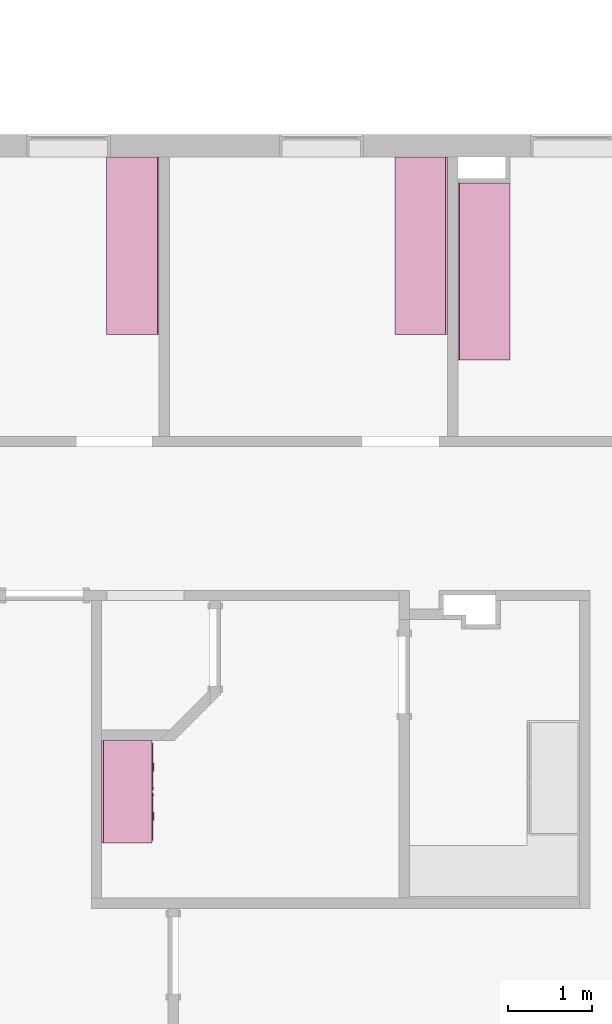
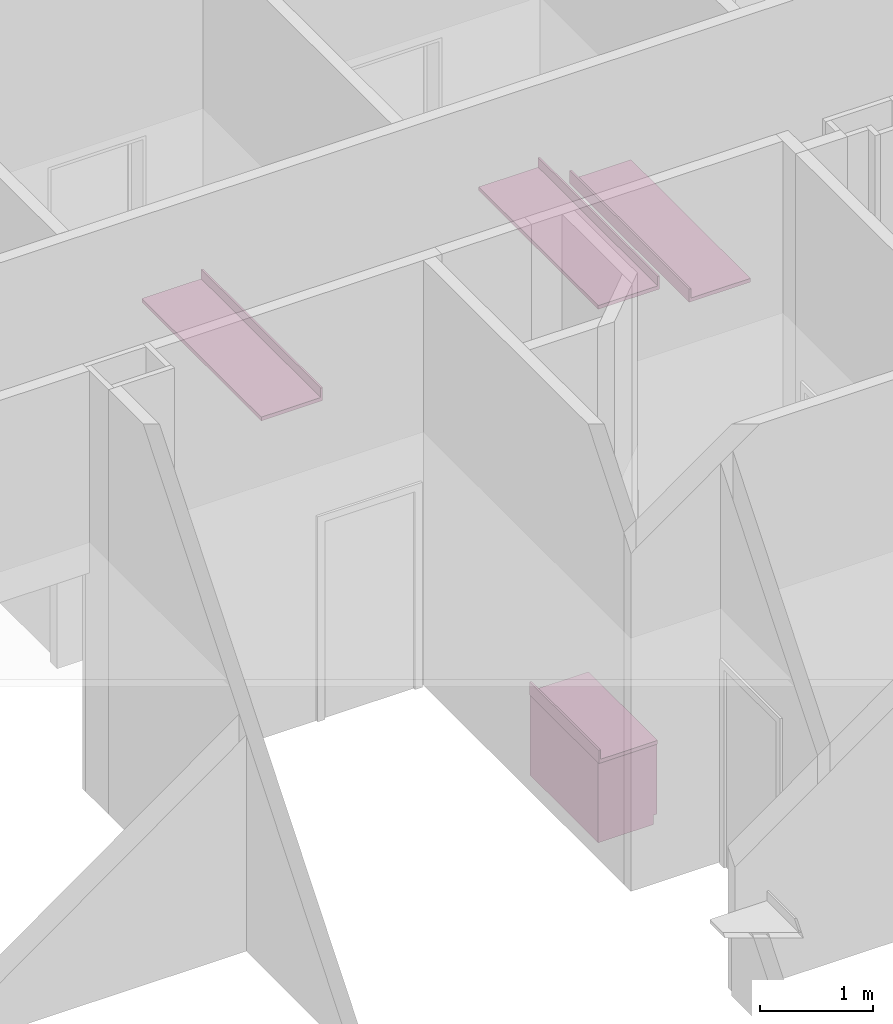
# One storey, part 45 of 47: 5 furnishings, 3 openings.
"""IFC2X3 building model written with IfcOpenShell, lengths in metres."""

from ifc_helpers import new_model, entity, si_unit, converted_unit, frame, frame_2d, origin, origin_2d_with_axis, place, context, project, spatial, polyline, circle_curve, parameter, trimmed, segment, composite_curve, rectangle, outline, extrude, face_set, surface_model, source, transform, mapped, type_object, type_shapes, element, save


model = new_model("IFC2X3")

# Units and contexts
model_context = context("Model", 3, precision=1e-09, world=origin())
plan_context = context("Plan", 3, precision=1e-09, world=origin())
ifc_project = project(units=[si_unit("LENGTHUNIT", "METRE"), si_unit("AREAUNIT", "SQUARE_METRE"), si_unit("VOLUMEUNIT", "CUBIC_METRE"), converted_unit("PLANEANGLEUNIT", "DEGREE", entity("IfcRatioMeasure", 0.01745329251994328), si_unit("PLANEANGLEUNIT", "RADIAN"), dimensions=[0, 0, 0, 0, 0, 0, 0]), si_unit("TIMEUNIT", "SECOND")], contexts=[model_context, plan_context])

# Site, building, storey, space
site_placement = place(None, origin())
site = spatial("IfcSite", under=ifc_project, at=site_placement, Name="Default", CompositionType="ELEMENT")
building_placement = place(site_placement, origin())
building = spatial("IfcBuilding", under=site, at=building_placement, CompositionType="ELEMENT")
storey_placement = place(building_placement, frame((0.0, 0.0, 4.570000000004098)))
storey = spatial("IfcBuildingStorey", under=building, at=storey_placement, Name="Second Floor", CompositionType="ELEMENT", Elevation=4.570000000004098)
space_1_placement = place(storey_placement, origin())
space_1 = spatial("IfcSpace", under=storey, at=space_1_placement, Name="2A12", CompositionType="ELEMENT", InteriorOrExteriorSpace="INTERNAL")

# Furnishings
furniture_type_1 = type_object("IfcFurnitureType", Name="1200mm", AssemblyPlace="NOTDEFINED")
shared_shape_1 = source(origin(), model_context, "Body", "SurfaceModel", [
    surface_model("IfcFaceBasedSurfaceModel", [(1.180949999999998, 0.04445000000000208, 0.86000000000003), (1.180949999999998, 0.04445000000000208, 0.09999999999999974), (0.01905000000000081, 0.04445000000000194, 0.09999999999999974), (0.01905000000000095, 0.04445000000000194, 0.86000000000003), (1.2, 0.02540000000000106, 0.8600000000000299), (0.0, 0.02540000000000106, 0.8600000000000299), (1.2, 0.02540000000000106, 0.09999999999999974), (0.0, 0.02540000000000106, 0.0999999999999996), (0.01905000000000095, 0.6063499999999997, 0.86000000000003), (0.01905000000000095, 0.6063499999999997, 0.09999999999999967), (0.01905000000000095, 0.06040000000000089, 0.09999999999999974), (0.0, 0.6254000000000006, 0.8600000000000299), (0.0, 0.6254000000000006, 0.0), (0.0, 0.06040000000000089, 0.0), (0.0, 0.06040000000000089, 0.09999999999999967), (1.180949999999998, 0.6063499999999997, 0.86000000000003), (1.180949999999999, 0.6063499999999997, 0.09999999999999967), (1.2, 0.6254000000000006, 0.8600000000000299), (1.2, 0.6254000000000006, 0.0), (1.180949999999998, 0.06040000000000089, 0.09999999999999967), (1.2, 0.06040000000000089, 0.09999999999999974), (1.2, 0.06040000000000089, 0.0), (0.3603250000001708, 0.0, 0.8155500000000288), (0.3603250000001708, 0.0, 0.8028500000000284), (0.258725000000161, 0.0, 0.8028500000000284), (0.258725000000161, 0.0, 0.8155500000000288), (0.9412750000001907, 0.0, 0.8155500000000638), (0.9412750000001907, 0.0, 0.8028500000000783), (0.8396750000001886, 0.0, 0.8028500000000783), (0.8396750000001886, 0.0, 0.8155500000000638), (0.5650750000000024, 0.0, 0.6822000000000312), (0.5650750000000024, 0.0, 0.5806000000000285), (0.5523750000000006, 0.0, 0.5806000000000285), (0.5523750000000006, 0.0, 0.6822000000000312), (0.6476249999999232, 0.0, 0.6822000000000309), (0.6476249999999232, 0.0, 0.5806000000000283), (0.6349249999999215, 0.0, 0.5806000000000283), (0.6349249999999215, 0.0, 0.6822000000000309), (0.3603250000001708, 0.01270000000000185, 0.8155500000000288), (0.3603250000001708, 0.01270000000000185, 0.8028500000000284), (0.2587250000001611, 0.01270000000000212, 0.8028500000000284), (0.2587250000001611, 0.01270000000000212, 0.8155500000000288), (0.9412750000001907, 0.01269999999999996, 0.8155500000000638), (0.9412750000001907, 0.01269999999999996, 0.8028500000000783), (0.8396750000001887, 0.01270000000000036, 0.8028500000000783), (0.8396750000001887, 0.01270000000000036, 0.8155500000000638), (0.5650750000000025, 0.01270000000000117, 0.6822000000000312), (0.5650750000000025, 0.01270000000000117, 0.5806000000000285), (0.5523750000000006, 0.01270000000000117, 0.5806000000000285), (0.5523750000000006, 0.01270000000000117, 0.6822000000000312), (0.6476249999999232, 0.0127000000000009, 0.6822000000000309), (0.6476249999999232, 0.0127000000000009, 0.5806000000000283), (0.6349249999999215, 0.0127000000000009, 0.5806000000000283), (0.6349249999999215, 0.0127000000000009, 0.6822000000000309), (0.5904749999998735, 0.01270000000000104, 0.8409500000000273), (0.5904749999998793, 0.01270000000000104, 0.7393500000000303), (0.01905000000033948, 0.0127000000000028, 0.7393500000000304), (0.01905000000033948, 0.0127000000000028, 0.8409500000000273), (1.180950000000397, 0.01269999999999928, 0.8409500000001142), (1.180950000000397, 0.01269999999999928, 0.7393500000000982), (0.6095249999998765, 0.01270000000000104, 0.7393500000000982), (0.6095249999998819, 0.01270000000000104, 0.8409500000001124), (0.5904749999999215, 0.01270000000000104, 0.7203000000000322), (0.5904749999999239, 0.01270000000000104, 0.1190499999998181), (0.01905000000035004, 0.0127000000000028, 0.1190499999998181), (0.01905000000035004, 0.0127000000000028, 0.7203000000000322), (1.180950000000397, 0.01269999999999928, 0.7203000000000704), (1.180950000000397, 0.01269999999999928, 0.1190499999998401), (0.6095249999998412, 0.01270000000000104, 0.1190499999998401), (0.6095249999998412, 0.01270000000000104, 0.7203000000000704), (0.5904749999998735, 0.02540000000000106, 0.8409500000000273), (0.5904749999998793, 0.02540000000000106, 0.7393500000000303), (0.01905000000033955, 0.02540000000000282, 0.7393500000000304), (0.01905000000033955, 0.02540000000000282, 0.8409500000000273), (1.180950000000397, 0.02539999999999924, 0.8409500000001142), (1.180950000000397, 0.02539999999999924, 0.7393500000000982), (0.6095249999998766, 0.025400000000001, 0.7393500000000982), (0.6095249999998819, 0.025400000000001, 0.8409500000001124), (0.5904749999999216, 0.02540000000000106, 0.7203000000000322), (0.5904749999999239, 0.02540000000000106, 0.1190499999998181), (0.01905000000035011, 0.02540000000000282, 0.1190499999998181), (0.01905000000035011, 0.02540000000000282, 0.7203000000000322), (1.180950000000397, 0.02539999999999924, 0.7203000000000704), (1.180950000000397, 0.02539999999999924, 0.1190499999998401), (0.6095249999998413, 0.025400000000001, 0.1190499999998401), (0.6095249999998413, 0.025400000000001, 0.7203000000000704), (1.180949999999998, 0.6063499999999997, 0.1190499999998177), (1.180949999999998, 0.04445000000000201, 0.1190499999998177), (0.01905000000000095, 0.04445000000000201, 0.1190499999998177), (0.01905000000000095, 0.6063499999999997, 0.1190499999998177), (1.180949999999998, 0.6063499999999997, 0.09999999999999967), (1.180949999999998, 0.04445000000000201, 0.09999999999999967), (0.01905000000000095, 0.04445000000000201, 0.09999999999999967), (0.01905000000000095, 0.6063499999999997, 0.09999999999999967)], [face_set([[[0, 1, 2, 3]], [[0, 4, 5, 3]], [[4, 6, 7, 5]], [[2, 1, 6, 7]], [[3, 8, 9, 10, 2]], [[5, 11, 8, 3]], [[7, 5, 11, 12, 13, 14]], [[2, 7, 14, 10]], [[8, 15, 16, 9]], [[11, 17, 15, 8]], [[12, 11, 17, 18]], [[1, 19, 16, 15, 0]], [[0, 15, 17, 4]], [[4, 6, 20, 21, 18, 17]], [[6, 1, 19, 20]], [[10, 9, 16, 19]], [[18, 21, 13, 12]], [[13, 14, 10, 19, 20, 21]]]), face_set([[[22, 23, 24, 25]], [[26, 27, 28, 29]], [[30, 31, 32, 33]], [[34, 35, 36, 37]], [[38, 39, 40, 41]], [[42, 43, 44, 45]], [[46, 47, 48, 49]], [[50, 51, 52, 53]], [[25, 41, 38, 22]], [[24, 40, 41, 25]], [[23, 24, 40, 39]], [[22, 23, 39, 38]], [[29, 45, 42, 26]], [[28, 44, 45, 29]], [[27, 28, 44, 43]], [[26, 27, 43, 42]], [[33, 49, 46, 30]], [[32, 48, 49, 33]], [[31, 32, 48, 47]], [[30, 31, 47, 46]], [[37, 53, 50, 34]], [[36, 52, 53, 37]], [[35, 36, 52, 51]], [[34, 35, 51, 50]]]), face_set([[[54, 55, 56, 57]], [[58, 59, 60, 61]], [[62, 63, 64, 65]], [[66, 67, 68, 69]], [[70, 71, 72, 73]], [[74, 75, 76, 77]], [[78, 79, 80, 81]], [[82, 83, 84, 85]], [[57, 73, 70, 54]], [[56, 57, 73, 72]], [[55, 56, 72, 71]], [[54, 55, 71, 70]], [[61, 77, 74, 58]], [[60, 76, 77, 61]], [[59, 60, 76, 75]], [[58, 59, 75, 74]], [[65, 81, 78, 62]], [[64, 65, 81, 80]], [[63, 64, 80, 79]], [[62, 63, 79, 78]], [[69, 85, 82, 66]], [[68, 84, 85, 69]], [[67, 68, 84, 83]], [[66, 67, 83, 82]]]), face_set([[[86, 87, 88, 89]], [[90, 91, 92, 93]], [[89, 86, 90, 93]], [[88, 89, 93, 92]], [[87, 91, 92, 88]], [[86, 87, 91, 90]]])]),
])
type_shapes(furniture_type_1, [shared_shape_1])
furnishing_1_placement = place(space_1_placement, frame((-11.17060000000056, 42.04730203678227, 0.0), z_axis=(0.0, 0.0, 1.0), x_axis=(0.0, 1.0, 0.0)))
element("IfcFurnishingElement", 1, at=furnishing_1_placement, inside=space_1, type_object=furniture_type_1, Name="M_Base Cabinet-Double Door & 2 Drawer:1200mm:1200mm", ObjectType="1200mm", context=model_context, shape_type="MappedRepresentation", body=[
    mapped(shared_shape_1, transform((0.0, 0.0, 0.0), scale=1.0)),
])
furniture_type_2 = type_object("IfcFurnitureType", Name="600mm Depth", AssemblyPlace="NOTDEFINED")
shared_shape_2 = source(origin(), model_context, "Body", "SweptSolid", [
    extrude(rectangle(XDim=0.01905000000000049, YDim=1.219999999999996, at=origin_2d_with_axis()), frame((-0.5904622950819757, -0.009525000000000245, 0.9000000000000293), z_axis=(0.0, 0.0, 1.0), x_axis=(0.0, -1.0, 0.0)), (0.0, 0.0, 1.0), 0.1016000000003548),
    extrude(rectangle(XDim=1.219999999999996, YDim=0.5999999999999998, at=origin_2d_with_axis()), frame((-0.5904622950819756, -0.2999999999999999, 0.8600000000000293), z_axis=(0.0, 0.0, 1.0), x_axis=(-1.0, 0.0, 0.0)), (0.0, 0.0, 1.0), 0.04000000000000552),
])
type_shapes(furniture_type_2, [shared_shape_2])
furnishing_2_placement = place(space_1_placement, frame((-11.79600000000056, 43.23776433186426, 0.0), z_axis=(0.0, 0.0, 1.0), x_axis=(0.0, 1.0, 0.0)))
element("IfcFurnishingElement", 2, at=furnishing_2_placement, inside=space_1, type_object=furniture_type_2, Name="M_Counter Top:600mm Depth:600mm Depth", ObjectType="600mm Depth", context=model_context, shape_type="MappedRepresentation", body=[
    mapped(shared_shape_2, transform((0.0, 0.0, 0.0), scale=1.0)),
])

# Space
space_2_placement = place(storey_placement, origin())
space_2 = spatial("IfcSpace", under=storey, at=space_2_placement, Name="2A07", CompositionType="ELEMENT", InteriorOrExteriorSpace="INTERNAL")

# Furnishing, opening
furniture_type_3 = type_object("IfcFurnitureType", Name="600mm Depth", AssemblyPlace="NOTDEFINED")
shared_shape_3 = source(origin(), model_context, "Body", "SweptSolid", [
    extrude(outline(polyline([(-0.2146833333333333, -0.06053333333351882), (0.4103166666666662, -0.06053333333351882), (0.4103166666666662, -0.02053333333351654), (-0.1956333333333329, -0.02053333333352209), (-0.1956333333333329, 0.08106666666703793), (-0.2146833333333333, 0.08106666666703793), (-0.2146833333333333, -0.06053333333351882)])), frame((-1.200462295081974, 0.2146833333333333, 0.9205333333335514), z_axis=(1.0, 0.0, 0.0), x_axis=(0.0, 1.0, 0.0)), (0.0, 0.0, 1.0), 2.10996063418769),
])
type_shapes(furniture_type_3, [shared_shape_3])
furnishing_3_placement = place(space_2_placement, frame((-11.11400000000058, 49.29350166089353, 0.0), z_axis=(0.0, 0.0, 1.0), x_axis=(0.0, 1.0, 0.0)))
furnishing_3 = element("IfcFurnishingElement", 3, at=furnishing_3_placement, inside=space_2, type_object=furniture_type_3, Name="M_Counter Top w Sink Hole:600mm Depth:600mm Depth", ObjectType="600mm Depth", context=model_context, shape_type="MappedRepresentation", body=[
    mapped(shared_shape_3, transform((0.0, 0.0, 0.0), scale=1.0)),
])
opening_1_placement = place(space_2_placement, frame((-11.11400000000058, 49.29350166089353, 0.0), z_axis=(0.0, 0.0, 1.0), x_axis=(0.0, 1.0, 0.0)))
element("IfcOpeningElement", 4, at=opening_1_placement, cuts=furnishing_3, Name="M_Counter Top w Sink Hole:600mm Depth:600mm Depth:1", ObjectType="Opening", context=model_context, shape_type="SweptSolid", body=[
    extrude(outline(composite_curve([segment(trimmed(circle_curve(frame_2d((-0.1397000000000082, 0.1509000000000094), x_axis=(1.0, 0.0)), 0.05079999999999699), [parameter(90.00000000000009)], [parameter(180.0000000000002)], True, "PARAMETER"), True, "CONTINUOUS"), segment(polyline([(-0.1905000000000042, 0.1509000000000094), (-0.1905000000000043, -0.1509000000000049)]), True, "CONTINUOUS"), segment(trimmed(circle_curve(frame_2d((-0.1397000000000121, -0.1509000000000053), x_axis=(1.0, 0.0)), 0.0507999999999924), [parameter(180.0000000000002)], [parameter(269.9999999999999)], True, "PARAMETER"), True, "CONTINUOUS"), segment(polyline([(-0.1397000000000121, -0.2016999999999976), (0.1397000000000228, -0.2016999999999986)]), True, "CONTINUOUS"), segment(trimmed(circle_curve(frame_2d((0.1397000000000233, -0.1509000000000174), x_axis=(1.0, 0.0)), 0.05079999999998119), [parameter(269.9999999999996)], [parameter(4.071109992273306e-13)], True, "PARAMETER"), True, "CONTINUOUS"), segment(polyline([(0.1905000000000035, -0.1509000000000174), (0.1905000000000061, 0.1508999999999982)]), True, "CONTINUOUS"), segment(trimmed(circle_curve(frame_2d((0.1396999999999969, 0.1508999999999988), x_axis=(1.0, 0.0)), 0.05080000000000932), [parameter(359.9999999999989)], [parameter(89.99999999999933)], True, "PARAMETER"), True, "CONTINUOUS"), segment(polyline([(0.1396999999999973, 0.2017000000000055), (-0.139700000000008, 0.2017000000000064)]), True, "CONTINUOUS")], self_intersect=False)), frame((0.2890000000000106, 0.8615112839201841, -3.670000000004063), z_axis=(0.0, 0.0, -1.0), x_axis=(0.0, -1.0, 0.0)), (0.0, 0.0, 1.0), 0.04000000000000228),
])

# Space
space_3_placement = place(storey_placement, origin())
space_3 = spatial("IfcSpace", under=storey, at=space_3_placement, Name="2A06", CompositionType="ELEMENT", InteriorOrExteriorSpace="INTERNAL")

# Furnishing, opening
furniture_type_4 = type_object("IfcFurnitureType", Name="600mm Depth", AssemblyPlace="NOTDEFINED")
shared_shape_4 = source(origin(), model_context, "Body", "SweptSolid", [
    extrude(outline(polyline([(-0.2146833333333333, -0.06053333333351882), (0.4103166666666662, -0.06053333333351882), (0.4103166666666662, -0.02053333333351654), (-0.1956333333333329, -0.02053333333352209), (-0.1956333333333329, 0.08106666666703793), (-0.2146833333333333, 0.08106666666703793), (-0.2146833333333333, -0.06053333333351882)])), frame((-1.200462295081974, 0.2146833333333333, 0.9205333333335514), z_axis=(1.0, 0.0, 0.0), x_axis=(0.0, 1.0, 0.0)), (0.0, 0.0, 1.0), 2.10996063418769),
])
type_shapes(furniture_type_4, [shared_shape_4])
furnishing_4_placement = place(space_3_placement, frame((-7.680000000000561, 49.29350166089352, 0.0), z_axis=(0.0, 0.0, 1.0), x_axis=(0.0, 1.0, 0.0)))
furnishing_4 = element("IfcFurnishingElement", 5, at=furnishing_4_placement, inside=space_3, type_object=furniture_type_4, Name="M_Counter Top w Sink Hole:600mm Depth:600mm Depth", ObjectType="600mm Depth", context=model_context, shape_type="MappedRepresentation", body=[
    mapped(shared_shape_4, transform((0.0, 0.0, 0.0), scale=1.0)),
])
opening_2_placement = place(space_3_placement, frame((-7.680000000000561, 49.29350166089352, 0.0), z_axis=(0.0, 0.0, 1.0), x_axis=(0.0, 1.0, 0.0)))
element("IfcOpeningElement", 6, at=opening_2_placement, cuts=furnishing_4, Name="M_Counter Top w Sink Hole:600mm Depth:600mm Depth:1", ObjectType="Opening", context=model_context, shape_type="SweptSolid", body=[
    extrude(outline(composite_curve([segment(trimmed(circle_curve(frame_2d((-0.1397000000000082, 0.1509000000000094), x_axis=(1.0, 0.0)), 0.05079999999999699), [parameter(90.00000000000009)], [parameter(180.0000000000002)], True, "PARAMETER"), True, "CONTINUOUS"), segment(polyline([(-0.1905000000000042, 0.1509000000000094), (-0.1905000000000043, -0.1509000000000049)]), True, "CONTINUOUS"), segment(trimmed(circle_curve(frame_2d((-0.1397000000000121, -0.1509000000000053), x_axis=(1.0, 0.0)), 0.0507999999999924), [parameter(180.0000000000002)], [parameter(269.9999999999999)], True, "PARAMETER"), True, "CONTINUOUS"), segment(polyline([(-0.1397000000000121, -0.2016999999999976), (0.1397000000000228, -0.2016999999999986)]), True, "CONTINUOUS"), segment(trimmed(circle_curve(frame_2d((0.1397000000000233, -0.1509000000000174), x_axis=(1.0, 0.0)), 0.05079999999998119), [parameter(269.9999999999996)], [parameter(4.071109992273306e-13)], True, "PARAMETER"), True, "CONTINUOUS"), segment(polyline([(0.1905000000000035, -0.1509000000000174), (0.1905000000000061, 0.1508999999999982)]), True, "CONTINUOUS"), segment(trimmed(circle_curve(frame_2d((0.1396999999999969, 0.1508999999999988), x_axis=(1.0, 0.0)), 0.05080000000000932), [parameter(359.9999999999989)], [parameter(89.99999999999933)], True, "PARAMETER"), True, "CONTINUOUS"), segment(polyline([(0.1396999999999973, 0.2017000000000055), (-0.139700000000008, 0.2017000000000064)]), True, "CONTINUOUS")], self_intersect=False)), frame((0.2890000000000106, 0.8615112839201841, -3.670000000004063), z_axis=(0.0, 0.0, -1.0), x_axis=(0.0, -1.0, 0.0)), (0.0, 0.0, 1.0), 0.04000000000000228),
])

# Space
space_4_placement = place(storey_placement, origin())
space_4 = spatial("IfcSpace", under=storey, at=space_4_placement, Name="2A05", CompositionType="ELEMENT", InteriorOrExteriorSpace="INTERNAL")

# Furnishing, opening
furniture_type_5 = type_object("IfcFurnitureType", Name="600mm Depth", AssemblyPlace="NOTDEFINED")
shared_shape_5 = source(origin(), model_context, "Body", "SweptSolid", [
    extrude(outline(polyline([(-0.0605333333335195, -0.2146833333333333), (0.08106666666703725, -0.2146833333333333), (0.08106666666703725, -0.1956333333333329), (-0.02053333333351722, -0.1956333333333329), (-0.02053333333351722, 0.4103166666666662), (-0.0605333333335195, 0.4103166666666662), (-0.0605333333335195, -0.2146833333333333)])), frame((-1.200462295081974, -0.2146833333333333, 0.920533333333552), z_axis=(1.0, 0.0, 0.0), x_axis=(0.0, 0.0, 1.0)), (0.0, 0.0, 1.0), 2.10996063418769),
])
type_shapes(furniture_type_5, [shared_shape_5])
furnishing_5_placement = place(space_4_placement, frame((-7.556000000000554, 48.98494037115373, 0.0), z_axis=(0.0, 0.0, 1.0), x_axis=(0.0, 1.0, 0.0)))
furnishing_5 = element("IfcFurnishingElement", 7, at=furnishing_5_placement, inside=space_4, type_object=furniture_type_5, Name="M_Counter Top w Sink Hole:600mm Depth:600mm Depth", ObjectType="600mm Depth", context=model_context, shape_type="MappedRepresentation", body=[
    mapped(shared_shape_5, transform((0.0, 0.0, 0.0), scale=1.0)),
])
opening_3_placement = place(space_4_placement, frame((-7.556000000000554, 48.98494037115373, 0.0), z_axis=(0.0, 0.0, 1.0), x_axis=(0.0, 1.0, 0.0)))
element("IfcOpeningElement", 8, at=opening_3_placement, cuts=furnishing_5, Name="M_Counter Top w Sink Hole:600mm Depth:600mm Depth:1", ObjectType="Opening", context=model_context, shape_type="SweptSolid", body=[
    extrude(outline(composite_curve([segment(polyline([(-0.1397000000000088, -0.2017000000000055), (0.1396999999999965, -0.2017000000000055)]), True, "CONTINUOUS"), segment(trimmed(circle_curve(frame_2d((0.1396999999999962, -0.1508999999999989), x_axis=(1.0, 0.0)), 0.05080000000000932), [parameter(270.0000000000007)], [parameter(1.068666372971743e-12)], True, "PARAMETER"), True, "CONTINUOUS"), segment(polyline([(0.1905000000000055, -0.1508999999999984), (0.1905000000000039, 0.1509000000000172)]), True, "CONTINUOUS"), segment(trimmed(circle_curve(frame_2d((0.1397000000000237, 0.1509000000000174), x_axis=(1.0, 0.0)), 0.05079999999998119), [parameter(359.9999999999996)], [parameter(90.0000000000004)], True, "PARAMETER"), True, "CONTINUOUS"), segment(polyline([(0.1397000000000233, 0.2016999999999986), (-0.1397000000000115, 0.2016999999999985)]), True, "CONTINUOUS"), segment(trimmed(circle_curve(frame_2d((-0.1397000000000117, 0.1509000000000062), x_axis=(1.0, 0.0)), 0.0507999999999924), [parameter(90.00000000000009)], [parameter(179.9999999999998)], True, "PARAMETER"), True, "CONTINUOUS"), segment(polyline([(-0.1905000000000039, 0.150900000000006), (-0.1905000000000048, -0.1509000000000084)]), True, "CONTINUOUS"), segment(trimmed(circle_curve(frame_2d((-0.1397000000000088, -0.1509000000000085), x_axis=(1.0, 0.0)), 0.05079999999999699), [parameter(179.9999999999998)], [parameter(269.9999999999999)], True, "PARAMETER"), True, "CONTINUOUS")], self_intersect=False)), frame((-0.2890000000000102, 0.861511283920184, -3.670000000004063), z_axis=(0.0, 0.0, -1.0), x_axis=(0.0, -1.0, 0.0)), (0.0, 0.0, 1.0), 0.04000000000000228),
])

save(model, "model.ifc")
